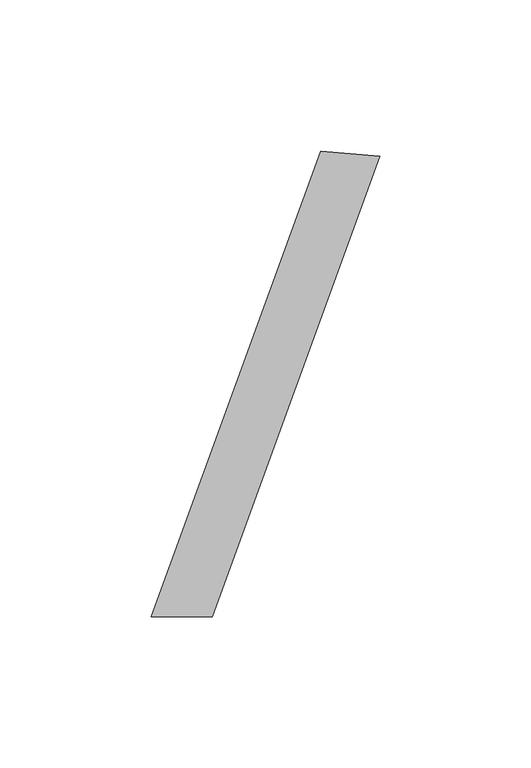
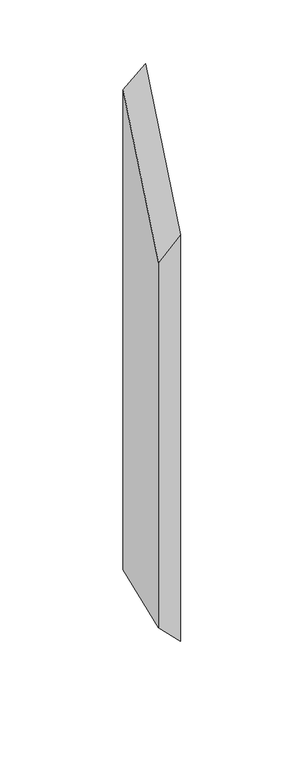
"""IFC4 building model written with IfcOpenShell, lengths in millimetres: proxy geometry, GRADIENT^TABLE 5_PRISM BASE-RT END BOTTOM."""

from ifc_helpers import new_model, si_unit, origin, place, context, project, spatial, faceted_brep, source, transform, mapped, element, save


def generic_models_d71e7aa1(model_context):
    return source(origin(), model_context, "Body", "Brep", [
        faceted_brep([(1981.2, -558.8, -355.6), (1961.553037, -557.0811135, -375.246963), (1905.4583497, -711.2, -431.3416503), (1925.7309363, -711.2, -411.0690637), (1961.553037, -557.0811135, -843.953037), (1905.4583497, -711.2, -787.8583497), (1981.2, -558.8, -863.6), (1925.7309363, -711.2, -808.1309363)], [[[0, 1, 2, 3]], [[2, 1, 4, 5]], [[1, 0, 6, 4]], [[0, 3, 7, 6]], [[4, 6, 7, 5]], [[3, 2, 5, 7]]]),
    ])


if __name__ == "__main__":
    model = new_model("IFC4")
    model_context = context("Model", 3, world=origin())
    ifc_project = project(units=[si_unit("LENGTHUNIT", "METRE", prefix="MILLI")], contexts=[model_context])
    site = spatial("IfcSite", under=ifc_project)
    building = spatial("IfcBuilding", under=site)
    placement = place(None, origin())
    generic_models_shape = generic_models_d71e7aa1(model_context)
    element("IfcBuildingElementProxy", 1, Name="GRADIENT^TABLE 5_PRISM BASE-RT END BOTTOM", ObjectType="GRADIENT^TABLE 5_PRISM BASE-RT END BOTTOM", at=placement, inside=building, context=model_context, shape_type="MappedRepresentation", body=[
        mapped(generic_models_shape, transform((0.0, 0.0, 0.0), x_axis=(1.0, 0.0, 0.0), y_axis=(0.0, 1.0, 0.0), z_axis=(0.0, 0.0, 1.0))),
    ])
    save(model, "model.ifc")
